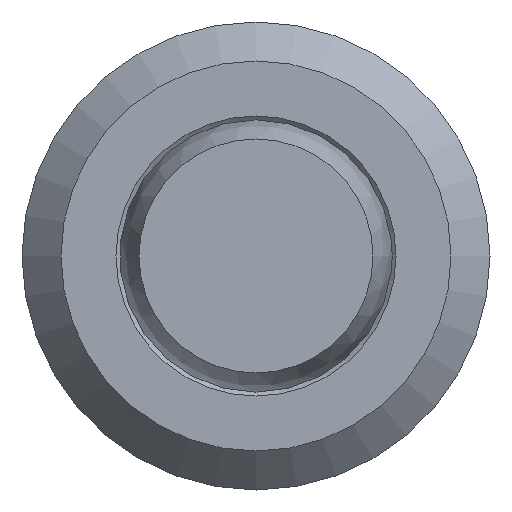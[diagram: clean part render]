
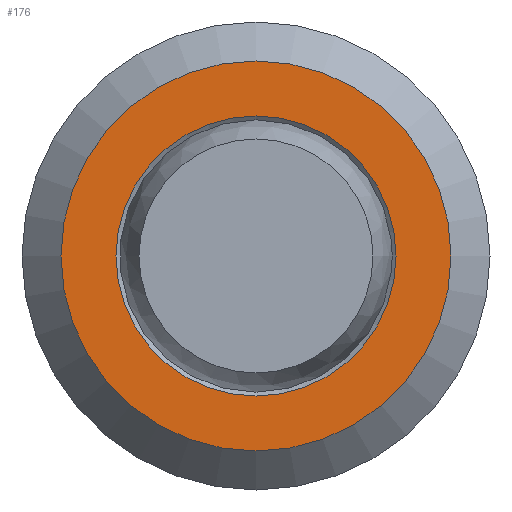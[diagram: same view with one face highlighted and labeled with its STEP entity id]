
A CAD part, front view. The second image highlights one B-rep face of the part: STEP entity #176.
In plain terms, the highlighted planar face has unit normal (0, -1, 0).
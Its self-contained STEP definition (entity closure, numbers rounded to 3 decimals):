
#176 = ADVANCED_FACE( '', ( #207, #208 ), #209, .F. );
#207 = FACE_BOUND( '', #253, .T. );
#208 = FACE_OUTER_BOUND( '', #254, .T. );
#209 = PLANE( '', #255 );
#253 = EDGE_LOOP( '', ( #323 ) );
#254 = EDGE_LOOP( '', ( #324 ) );
#255 = AXIS2_PLACEMENT_3D( '', #325, #326, #327 );
#323 = ORIENTED_EDGE( '', *, *, #402, .F. );
#324 = ORIENTED_EDGE( '', *, *, #405, .T. );
#325 = CARTESIAN_POINT( '', ( 5., 0., 0. ) );
#326 = DIRECTION( '', ( 0., 1., 0. ) );
#327 = DIRECTION( '', ( 0., 0., 1. ) );
#402 = EDGE_CURVE( '', #441, #441, #442, .T. );
#405 = EDGE_CURVE( '', #447, #447, #448, .T. );
#441 = VERTEX_POINT( '', #500 );
#442 = CIRCLE( '', #501, 3.59 );
#447 = VERTEX_POINT( '', #506 );
#448 = CIRCLE( '', #507, 5. );
#500 = CARTESIAN_POINT( '', ( 0., 0., -3.59 ) );
#501 = AXIS2_PLACEMENT_3D( '', #548, #549, #550 );
#506 = CARTESIAN_POINT( '', ( 0., 0., -5. ) );
#507 = AXIS2_PLACEMENT_3D( '', #557, #558, #559 );
#548 = CARTESIAN_POINT( '', ( 0., 0., 0. ) );
#549 = DIRECTION( '', ( 0., -1., 0. ) );
#550 = DIRECTION( '', ( 0., 0., -1. ) );
#557 = CARTESIAN_POINT( '', ( 0., 0., 0. ) );
#558 = DIRECTION( '', ( 0., -1., 0. ) );
#559 = DIRECTION( '', ( 0., 0., -1. ) );
